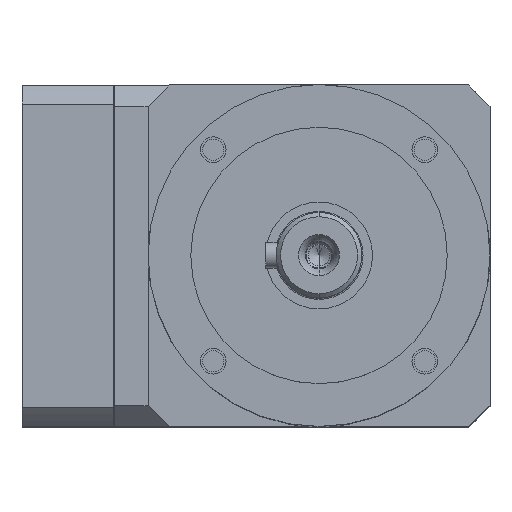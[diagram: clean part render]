
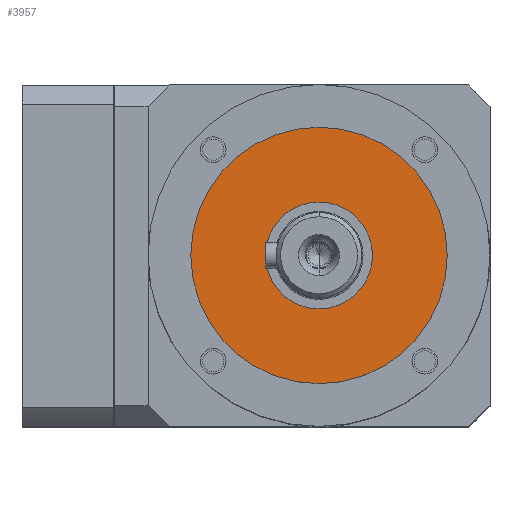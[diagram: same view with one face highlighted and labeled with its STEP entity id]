
A CAD part, top view. The second image highlights one B-rep face of the part: STEP entity #3957.
In plain terms, the highlighted planar face has unit normal (0, 0, 1).
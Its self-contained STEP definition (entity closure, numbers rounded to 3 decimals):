
#171=CARTESIAN_POINT('',(69.5,0.,107.));
#172=DIRECTION('',(0.,0.,-1.));
#173=DIRECTION('',(0.,-1.,0.));
#174=AXIS2_PLACEMENT_3D('',#171,#172,#173);
#176=CARTESIAN_POINT('',(69.5,0.,107.));
#177=DIRECTION('',(0.,0.,1.));
#178=DIRECTION('',(0.,-1.,0.));
#179=AXIS2_PLACEMENT_3D('',#176,#177,#178);
#186=CARTESIAN_POINT('',(69.5,0.,107.));
#187=DIRECTION('',(0.,0.,1.));
#188=DIRECTION('',(0.,-1.,0.));
#189=AXIS2_PLACEMENT_3D('',#186,#187,#188);
#2692=CARTESIAN_POINT('',(69.5,0.,107.));
#2693=DIRECTION('',(0.,0.,-1.));
#2694=DIRECTION('',(0.,-1.,0.));
#2695=AXIS2_PLACEMENT_3D('',#2692,#2693,#2694);
#2918=CARTESIAN_POINT('',(69.5,-12.5,107.));
#2920=VERTEX_POINT('',#2918);
#2922=CARTESIAN_POINT('',(69.5,12.5,107.));
#2924=VERTEX_POINT('',#2922);
#2925=CARTESIAN_POINT('',(69.5,-30.,107.));
#2926=CARTESIAN_POINT('',(69.5,30.,107.));
#2927=VERTEX_POINT('',#2925);
#2928=VERTEX_POINT('',#2926);
#3942=CARTESIAN_POINT('',(69.5,0.,107.));
#3943=DIRECTION('',(0.,0.,1.));
#3944=DIRECTION('',(0.,1.,0.));
#3945=AXIS2_PLACEMENT_3D('',#3942,#3943,#3944);
#3946=PLANE('',#3945);
#3948=ORIENTED_EDGE('',*,*,#3947,.F.);
#3950=ORIENTED_EDGE('',*,*,#3949,.T.);
#3951=EDGE_LOOP('',(#3948,#3950));
#3952=FACE_OUTER_BOUND('',#3951,.F.);
#3953=ORIENTED_EDGE('',*,*,#3928,.F.);
#3954=ORIENTED_EDGE('',*,*,#3910,.T.);
#3955=EDGE_LOOP('',(#3953,#3954));
#3956=FACE_BOUND('',#3955,.F.);
#175=CIRCLE('',#174,12.5);
#180=CIRCLE('',#179,12.5);
#190=CIRCLE('',#189,30.);
#2696=CIRCLE('',#2695,30.);
#3910=EDGE_CURVE('',#2920,#2924,#180,.T.);
#3928=EDGE_CURVE('',#2920,#2924,#175,.T.);
#3947=EDGE_CURVE('',#2927,#2928,#190,.T.);
#3949=EDGE_CURVE('',#2927,#2928,#2696,.T.);
#3957=ADVANCED_FACE('',(#3952,#3956),#3946,.T.);
